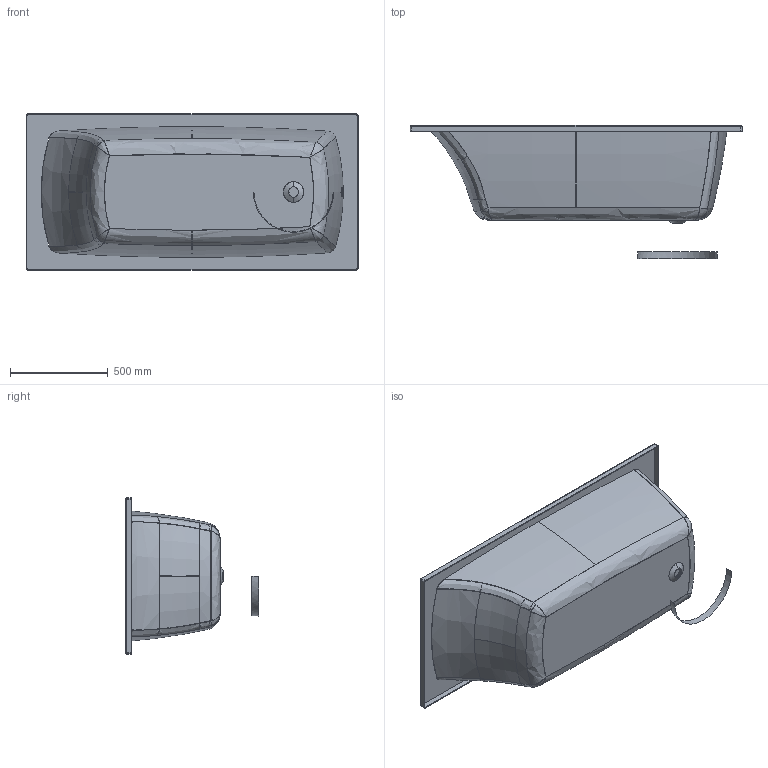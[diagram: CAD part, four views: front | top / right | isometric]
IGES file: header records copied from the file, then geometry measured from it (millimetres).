
Start section: SolidWorks IGES file using analytic representation for surfaces
Global section: file name: D:\Users\M.Szymanski\Desktop\Wanny\Largo\03. do przegrania\gotowe\WP_LA 170x80.IGS; native system: SolidWorks 2011; preprocessor: SolidWorks 2011; author: M.Szymanski; date: 180607.132426; units: millimetre
Bounding box: 1700 x 681.1 x 800 mm (x, y, z)
Surface area: 5714472.9 mm2 (no closed solid volume)
Topology: 0 solids, 0 shells, 124 faces, 1528 edges, 1518 vertices
Faces by surface type: bspline 96, revolution 28
